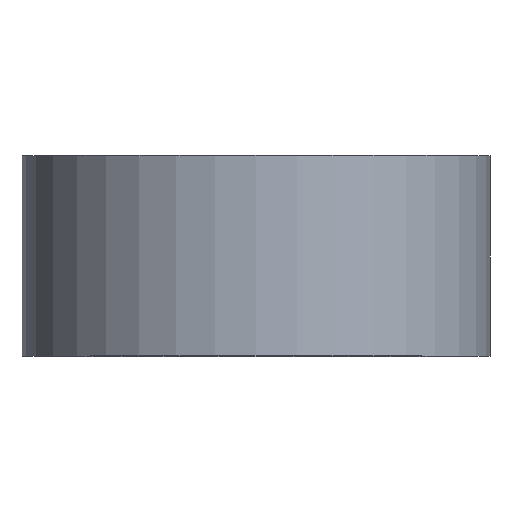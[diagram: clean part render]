
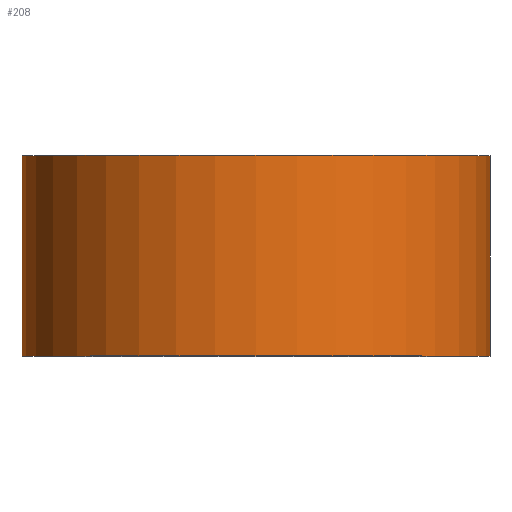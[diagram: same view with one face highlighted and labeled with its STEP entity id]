
A CAD part, top view. The second image highlights one B-rep face of the part: STEP entity #208.
In plain terms, the highlighted cylindrical face has radius 35 mm (diameter 70 mm), a partial arc.
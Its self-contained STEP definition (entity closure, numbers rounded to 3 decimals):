
#11 = EDGE_CURVE ( 'NONE', #69, #214, #167, .T. ) ;
#24 = ORIENTED_EDGE ( 'NONE', *, *, #242, .F. ) ;
#25 = CARTESIAN_POINT ( 'NONE',  ( -35., 30., 0. ) ) ;
#28 = VERTEX_POINT ( 'NONE', #25 ) ;
#33 = VECTOR ( 'NONE', #247, 1000. ) ;
#59 = DIRECTION ( 'NONE',  ( 0., 1., 0. ) ) ;
#61 = DIRECTION ( 'NONE',  ( -1., 0., 0. ) ) ;
#62 = CARTESIAN_POINT ( 'NONE',  ( 35., 0., 0. ) ) ;
#69 = VERTEX_POINT ( 'NONE', #84 ) ;
#74 = AXIS2_PLACEMENT_3D ( 'NONE', #279, #153, #61 ) ;
#82 = AXIS2_PLACEMENT_3D ( 'NONE', #296, #85, #194 ) ;
#84 = CARTESIAN_POINT ( 'NONE',  ( -35., 0., 0. ) ) ;
#85 = DIRECTION ( 'NONE',  ( 0., 1., 0. ) ) ;
#111 = EDGE_CURVE ( 'NONE', #214, #151, #248, .T. ) ;
#120 = VECTOR ( 'NONE', #166, 1000. ) ;
#150 = CARTESIAN_POINT ( 'NONE',  ( -35., 0., 0. ) ) ;
#151 = VERTEX_POINT ( 'NONE', #249 ) ;
#153 = DIRECTION ( 'NONE',  ( 0., 1., 0. ) ) ;
#163 = ORIENTED_EDGE ( 'NONE', *, *, #111, .T. ) ;
#166 = DIRECTION ( 'NONE',  ( 0., 1., 0. ) ) ;
#167 = CIRCLE ( 'NONE', #74, 35. ) ;
#194 = DIRECTION ( 'NONE',  ( -1., 0., 0. ) ) ;
#208 = ADVANCED_FACE ( 'NONE', ( #255 ), #243, .T. ) ;
#210 = LINE ( 'NONE', #150, #33 ) ;
#211 = EDGE_LOOP ( 'NONE', ( #215, #163, #24, #271 ) ) ;
#214 = VERTEX_POINT ( 'NONE', #226 ) ;
#215 = ORIENTED_EDGE ( 'NONE', *, *, #11, .T. ) ;
#226 = CARTESIAN_POINT ( 'NONE',  ( 35., 0., 0. ) ) ;
#237 = AXIS2_PLACEMENT_3D ( 'NONE', #278, #59, #276 ) ;
#240 = EDGE_CURVE ( 'NONE', #69, #28, #210, .T. ) ;
#242 = EDGE_CURVE ( 'NONE', #28, #151, #284, .T. ) ;
#243 = CYLINDRICAL_SURFACE ( 'NONE', #237, 35. ) ;
#247 = DIRECTION ( 'NONE',  ( 0., 1., 0. ) ) ;
#248 = LINE ( 'NONE', #62, #120 ) ;
#249 = CARTESIAN_POINT ( 'NONE',  ( 35., 30., 0. ) ) ;
#255 = FACE_OUTER_BOUND ( 'NONE', #211, .T. ) ;
#271 = ORIENTED_EDGE ( 'NONE', *, *, #240, .F. ) ;
#276 = DIRECTION ( 'NONE',  ( -1., 0., 0. ) ) ;
#278 = CARTESIAN_POINT ( 'NONE',  ( 0., 0., 0. ) ) ;
#279 = CARTESIAN_POINT ( 'NONE',  ( 0., 0., 0. ) ) ;
#284 = CIRCLE ( 'NONE', #82, 35. ) ;
#296 = CARTESIAN_POINT ( 'NONE',  ( 0., 30., 0. ) ) ;
